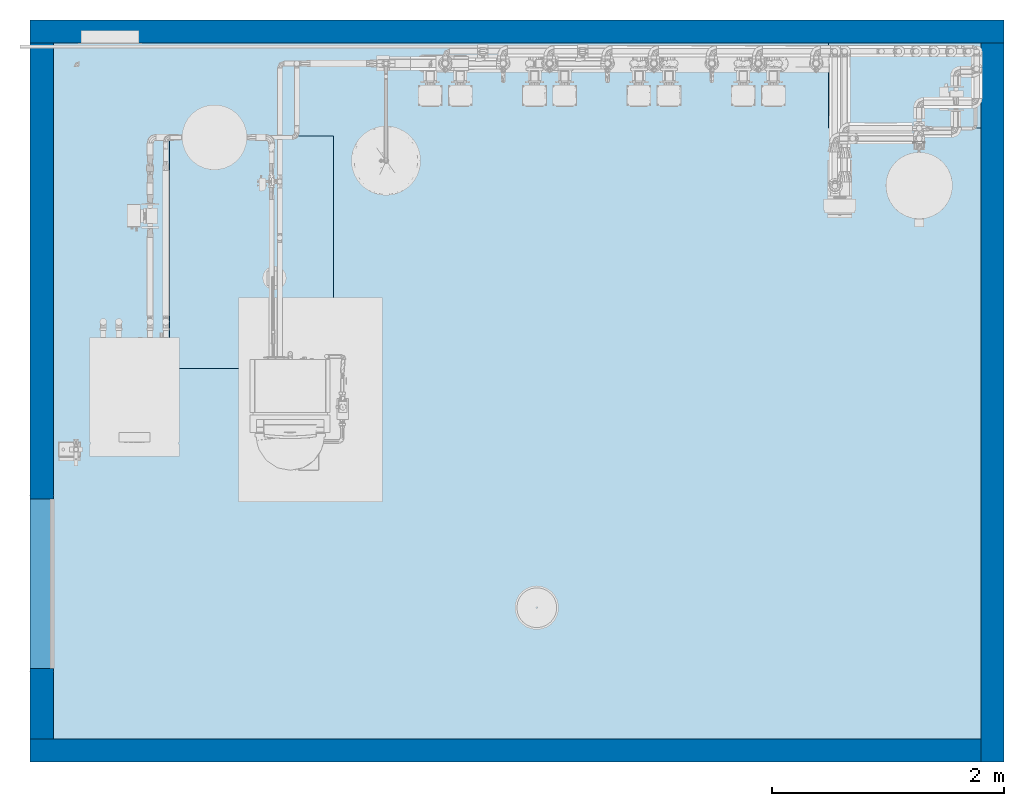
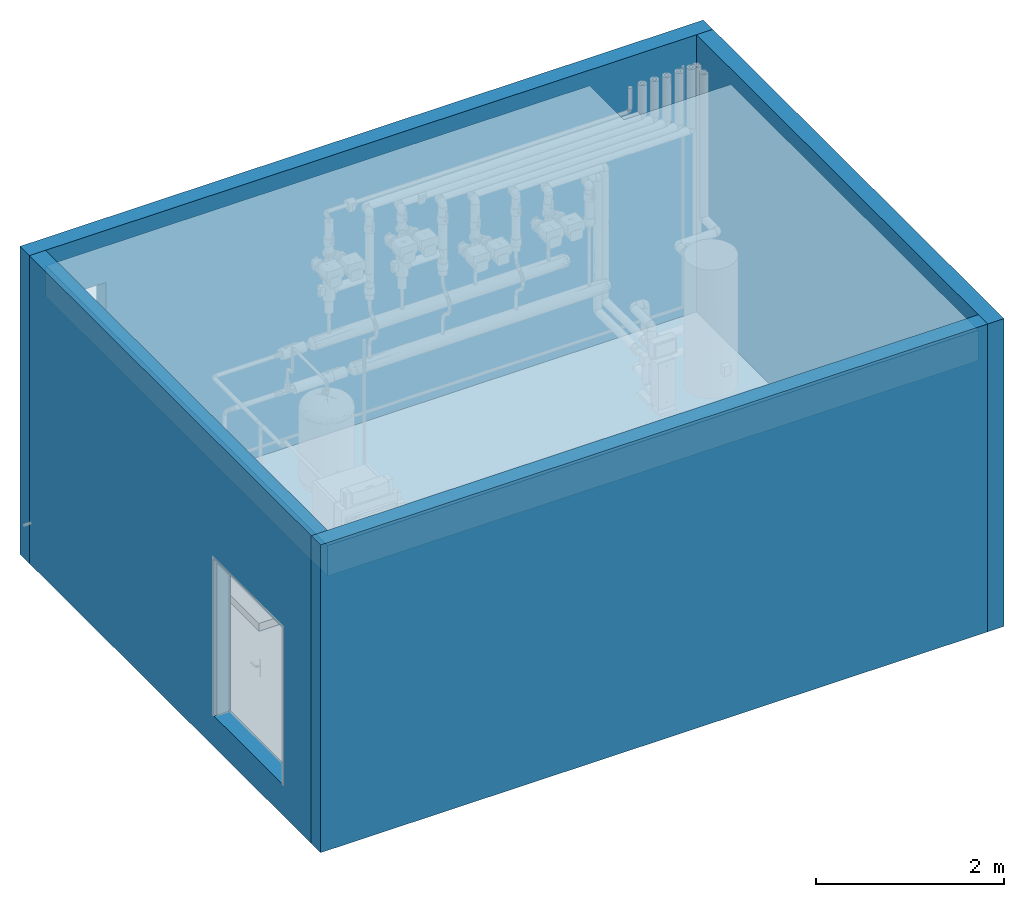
# One storey, part 1 of 94: 4 walls, 3 slabs, 3 openings, 1 element without a shape of its own.
"""IFC2X3 building model written with IfcOpenShell, lengths in millimetres."""

from ifc_helpers import new_model, entity, si_unit, converted_unit, derived_unit, direction, frame, frame_2d, origin, place, context, subcontext, project, spatial, polyline, rectangle, outline, extrude, material, layer, layer_set, layer_usage, type_object, element, aggregate, save


model = new_model("IFC2X3")

# Units and contexts
model_context = context("Model", 3, precision=0.01, world=origin(), true_north=direction((6.123031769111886e-17, 1.0)))
body_context = subcontext(model_context, "Body", "Model", "MODEL_VIEW")
ifc_project = project(units=[si_unit("LENGTHUNIT", "METRE", prefix="MILLI"), si_unit("AREAUNIT", "SQUARE_METRE"), si_unit("VOLUMEUNIT", "CUBIC_METRE"), converted_unit("PLANEANGLEUNIT", "DEGREE", entity("IfcRatioMeasure", 0.017453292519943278), si_unit("PLANEANGLEUNIT", "RADIAN"), dimensions=[0, 0, 0, 0, 0, 0, 0]), si_unit("MASSUNIT", "GRAM", prefix="KILO"), derived_unit("MASSDENSITYUNIT", [(si_unit("MASSUNIT", "GRAM", prefix="KILO"), 1), (si_unit("LENGTHUNIT", "METRE"), -3)]), derived_unit("IONCONCENTRATIONUNIT", [(si_unit("MASSUNIT", "GRAM", prefix="KILO"), 1), (si_unit("LENGTHUNIT", "METRE"), -3)]), derived_unit("MOMENTOFINERTIAUNIT", [(si_unit("LENGTHUNIT", "METRE"), 4)]), si_unit("TIMEUNIT", "SECOND"), si_unit("FREQUENCYUNIT", "HERTZ"), si_unit("THERMODYNAMICTEMPERATUREUNIT", "DEGREE_CELSIUS"), derived_unit("THERMALTRANSMITTANCEUNIT", [(si_unit("MASSUNIT", "GRAM", prefix="KILO"), 1), (si_unit("THERMODYNAMICTEMPERATUREUNIT", "KELVIN"), -1), (si_unit("TIMEUNIT", "SECOND"), -3)]), derived_unit("THERMALCONDUCTANCEUNIT", [(si_unit("MASSUNIT", "GRAM", prefix="KILO"), 1), (si_unit("THERMODYNAMICTEMPERATUREUNIT", "KELVIN"), -1), (si_unit("TIMEUNIT", "SECOND"), -3), (si_unit("LENGTHUNIT", "METRE"), 1)]), derived_unit("VOLUMETRICFLOWRATEUNIT", [(si_unit("LENGTHUNIT", "METRE"), 3), (si_unit("TIMEUNIT", "SECOND"), -1)]), derived_unit("MASSFLOWRATEUNIT", [(si_unit("MASSUNIT", "GRAM", prefix="KILO"), 1), (si_unit("TIMEUNIT", "SECOND"), -1)]), derived_unit("ROTATIONALFREQUENCYUNIT", [(si_unit("TIMEUNIT", "SECOND"), -1)]), si_unit("ELECTRICCURRENTUNIT", "AMPERE"), si_unit("ELECTRICVOLTAGEUNIT", "VOLT"), si_unit("POWERUNIT", "WATT"), si_unit("FORCEUNIT", "NEWTON", prefix="KILO"), si_unit("ILLUMINANCEUNIT", "LUX"), si_unit("LUMINOUSFLUXUNIT", "LUMEN"), si_unit("LUMINOUSINTENSITYUNIT", "CANDELA"), derived_unit("USERDEFINED", [(si_unit("MASSUNIT", "GRAM", prefix="KILO"), -1), (si_unit("LENGTHUNIT", "METRE"), -2), (si_unit("TIMEUNIT", "SECOND"), 3), (si_unit("LUMINOUSFLUXUNIT", "LUMEN"), 1)]), derived_unit("USERDEFINED", [(si_unit("MASSUNIT", "GRAM", prefix="KILO"), 1), (si_unit("TIMEUNIT", "SECOND"), -3), (si_unit("LENGTHUNIT", "METRE"), 3), (si_unit("ELECTRICCURRENTUNIT", "AMPERE"), -2)]), derived_unit("SOUNDPOWERUNIT", [(si_unit("MASSUNIT", "GRAM", prefix="KILO"), 1), (si_unit("TIMEUNIT", "SECOND"), -3), (si_unit("LENGTHUNIT", "METRE"), 2)]), derived_unit("SOUNDPRESSUREUNIT", [(si_unit("MASSUNIT", "GRAM", prefix="KILO"), 1), (si_unit("LENGTHUNIT", "METRE"), -1), (si_unit("TIMEUNIT", "SECOND"), -2)]), derived_unit("LINEARVELOCITYUNIT", [(si_unit("LENGTHUNIT", "METRE"), 1), (si_unit("TIMEUNIT", "SECOND"), -1)]), si_unit("PRESSUREUNIT", "PASCAL"), derived_unit("USERDEFINED", [(si_unit("MASSUNIT", "GRAM", prefix="KILO"), 1), (si_unit("LENGTHUNIT", "METRE"), -2), (si_unit("TIMEUNIT", "SECOND"), -2)]), derived_unit("LINEARFORCEUNIT", [(si_unit("MASSUNIT", "GRAM", prefix="KILO"), 1), (si_unit("TIMEUNIT", "SECOND"), -2)]), derived_unit("PLANARFORCEUNIT", [(si_unit("MASSUNIT", "GRAM", prefix="KILO"), 1), (si_unit("LENGTHUNIT", "METRE"), -1), (si_unit("TIMEUNIT", "SECOND"), -2)]), derived_unit("SPECIFICHEATCAPACITYUNIT", [(si_unit("THERMODYNAMICTEMPERATUREUNIT", "KELVIN"), -1), (si_unit("LENGTHUNIT", "METRE"), 2), (si_unit("TIMEUNIT", "SECOND"), -2)]), derived_unit("HEATINGVALUEUNIT", [(si_unit("LENGTHUNIT", "METRE"), 2), (si_unit("TIMEUNIT", "SECOND"), -2)]), derived_unit("VAPORPERMEABILITYUNIT", [(si_unit("LENGTHUNIT", "METRE"), -1), (si_unit("TIMEUNIT", "SECOND"), 1)]), derived_unit("DYNAMICVISCOSITYUNIT", [(si_unit("MASSUNIT", "GRAM", prefix="KILO"), 1), (si_unit("TIMEUNIT", "SECOND"), -1), (si_unit("LENGTHUNIT", "METRE"), -1)]), derived_unit("THERMALEXPANSIONCOEFFICIENTUNIT", [(si_unit("THERMODYNAMICTEMPERATUREUNIT", "KELVIN"), -1)]), derived_unit("MODULUSOFELASTICITYUNIT", [(si_unit("MASSUNIT", "GRAM", prefix="KILO"), 1), (si_unit("LENGTHUNIT", "METRE"), -1), (si_unit("TIMEUNIT", "SECOND"), -2)]), derived_unit("ISOTHERMALMOISTURECAPACITYUNIT", [(si_unit("LENGTHUNIT", "METRE"), 3), (si_unit("MASSUNIT", "GRAM", prefix="KILO"), -1)]), derived_unit("MOISTUREDIFFUSIVITYUNIT", [(si_unit("TIMEUNIT", "SECOND"), -1), (si_unit("LENGTHUNIT", "METRE"), 2)])], contexts=[model_context])

# Site, building, storey
site_placement = place(None, origin())
site = spatial("IfcSite", under=ifc_project, at=site_placement, Name="Default", CompositionType="ELEMENT")
building_placement = place(site_placement, origin())
building = spatial("IfcBuilding", under=site, at=building_placement, CompositionType="ELEMENT")
storey_placement = place(building_placement, origin())
storey = spatial("IfcBuildingStorey", under=building, at=storey_placement, Name="Niveau 0", CompositionType="ELEMENT", Elevation=0.0)

# Slab
ifc_material_1 = material(Name="Sol par défaut")
ifc_layer_1 = layer(ifc_material_1, 299.99999999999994)
ifc_layer_set_1 = layer_set([ifc_layer_1], Name="Sol:Générique  300 mm")
ifc_layer_usage_1 = layer_usage(ifc_layer_set_1, "AXIS3", "POSITIVE", 0.0)
slab_type_1 = type_object("IfcSlabType", Name="Sol:Générique  300 mm", PredefinedType="FLOOR", material=ifc_layer_set_1)
slab_1_placement = place(storey_placement, origin())
element("IfcSlab", 1, at=slab_1_placement, inside=storey, type_object=slab_type_1, material=ifc_layer_usage_1, Name="Sol:Générique  300 mm", ObjectType="Sol:Générique  300 mm", PredefinedType="FLOOR", context=body_context, shape_type="SweptSolid", body=[
    extrude(rectangle(XDim=5999.999999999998, YDim=7999.999999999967, at=frame_2d((0.0, 9.094947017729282e-12), x_axis=(1.0, 0.0))), frame((-9752.538466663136, 7097.470546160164, 0.0), z_axis=(0.0, 0.0, -1.0), x_axis=(0.0, 1.0, 0.0)), (0.0, 0.0, 1.0), 299.99999999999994),
])

# Roof, slab
ifc_material_2 = material(Name="Contreplaqué, revêtement")
ifc_layer_2 = layer(ifc_material_2, 400.0)
ifc_layer_set_2 = layer_set([ifc_layer_2], Name="Toit de base:Générique  - 400 mm")
roof_placement = place(storey_placement, frame((-13752.538466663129, 4097.470546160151, 3000.0)))
roof = element("IfcRoof", 2, at=roof_placement, inside=storey, material=ifc_layer_set_2, Name="Toit de base:Générique  - 400 mm", ObjectType="Toit de base:Générique  - 400 mm", ShapeType="NOTDEFINED")
slab_type_2 = type_object("IfcSlabType", Name="Toit de base:Générique  - 400 mm", PredefinedType="ROOF")
slab_2_placement = place(roof_placement, origin())
slab_2 = element("IfcSlab", 3, at=slab_2_placement, type_object=slab_type_2, material=ifc_layer_set_2, Name="Toit de base:Générique  - 400 mm", ObjectType="Toit de base:Générique  - 400 mm", PredefinedType="ROOF", context=body_context, shape_type="SweptSolid", body=[
    extrude(outline(polyline([(-4000.0, 3000.0), (-4000.0, -3000.0), (4000.0, -3000.0), (4000.0, 2268.681428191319), (2687.460031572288, 2268.681428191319), (2687.460031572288, 3000.0), (-4000.0, 3000.0)])), frame((4000.0, 3000.0, 0.0)), (0.0, 0.0, 1.0), 400.0),
])
aggregate(roof, [slab_2])

# Slab
ifc_layer_3 = layer(ifc_material_1, 100.0)
ifc_layer_set_3 = layer_set([ifc_layer_3], Name="Sol:Générique  100 mm 2")
ifc_layer_usage_2 = layer_usage(ifc_layer_set_3, "AXIS3", "POSITIVE", 0.0)
slab_type_3 = type_object("IfcSlabType", Name="Sol:Générique  100 mm 2", PredefinedType="FLOOR", material=ifc_layer_set_3)
slab_3_placement = place(storey_placement, origin())
element("IfcSlab", 4, at=slab_3_placement, inside=storey, type_object=slab_type_3, material=ifc_layer_usage_2, Name="Sol:Générique  100 mm 2", ObjectType="Sol:Générique  100 mm 2", PredefinedType="FLOOR", context=body_context, shape_type="SweptSolid", body=[
    extrude(rectangle(XDim=2003.703807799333, YDim=1413.616278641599, at=frame_2d((0.0, -1.0800249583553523e-12), x_axis=(1.0, 0.0))), frame((-12044.238599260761, 8294.016046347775, 100.0), z_axis=(0.0, 0.0, -1.0), x_axis=(0.0, 1.0, 0.0)), (0.0, 0.0, 1.0), 100.0),
])

# Wall, openings
ifc_material_3 = material(Name="Mur par défaut")
ifc_layer_4 = layer(ifc_material_3, 200.0)
ifc_layer_set_4 = layer_set([ifc_layer_4], Name="Mur de base:Générique - 200 mm")
ifc_layer_usage_3 = layer_usage(ifc_layer_set_4, "AXIS2", "NEGATIVE", 100.0)
wall_type = type_object("IfcWallType", Name="Mur de base:Générique - 200 mm", PredefinedType="STANDARD", material=ifc_layer_set_4)
wall_1_placement = place(storey_placement, frame((-13952.538466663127, 10197.470546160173, -400.0)))
wall_1 = element("IfcWallStandardCase", 5, at=wall_1_placement, inside=storey, type_object=wall_type, material=ifc_layer_usage_3, Name="Mur de base:Générique - 200 mm", ObjectType="Mur de base:Générique - 200 mm", context=body_context, shape_type="SweptSolid", body=[
    extrude(rectangle(XDim=8400.0, YDim=199.99999999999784, at=frame_2d((4200.0, 5.968558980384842e-13), x_axis=(-1.0, 0.0))), origin(), (0.0, 0.0, 1.0), 4000.0000000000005),
])
opening_1_placement = place(wall_1_placement, origin())
element("IfcOpeningElement", 6, at=opening_1_placement, cuts=wall_1, Name="Mur de base:Générique - 200 mm:398", ObjectType="Opening", context=body_context, shape_type="SweptSolid", body=[
    extrude(rectangle(XDim=400.0, YDim=500.00000000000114, at=frame_2d((1.0800249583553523e-12, 0.0), x_axis=(0.0, 1.0))), frame((689.6050545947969, 100.0, 828.1991194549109), z_axis=(0.0, -1.0, 0.0), x_axis=(-1.0, 0.0, 0.0)), (0.0, 0.0, 1.0), 200.0),
])
opening_2_placement = place(wall_1_placement, origin())
element("IfcOpeningElement", 7, at=opening_2_placement, cuts=wall_1, Name="Mur de base:Générique - 200 mm:398", ObjectType="Opening", context=body_context, shape_type="SweptSolid", body=[
    extrude(rectangle(XDim=400.0, YDim=500.00000000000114, at=frame_2d((1.0800249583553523e-12, 0.0), x_axis=(0.0, 1.0))), frame((689.6050545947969, 100.0, 3122.5404198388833), z_axis=(0.0, -1.0, 0.0), x_axis=(-1.0, 0.0, 0.0)), (0.0, 0.0, 1.0), 200.0),
])

# Walls
wall_2_placement = place(storey_placement, frame((-5652.538466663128, 10097.47054616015, -400.0), z_axis=(0.0, 0.0, 1.0), x_axis=(0.0, -1.0, 0.0)))
element("IfcWallStandardCase", 8, at=wall_2_placement, inside=storey, type_object=wall_type, material=ifc_layer_usage_3, Name="Mur de base:Générique - 200 mm", ObjectType="Mur de base:Générique - 200 mm", context=body_context, shape_type="SweptSolid", body=[
    extrude(rectangle(XDim=6199.999999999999, YDim=200.0, at=frame_2d((3099.9999999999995, 2.1316282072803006e-14), x_axis=(-1.0, 0.0))), origin(), (0.0, 0.0, 1.0), 4000.000000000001),
])
wall_3_placement = place(storey_placement, frame((-5752.538466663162, 3997.4705461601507, -400.0), z_axis=(0.0, 0.0, 1.0), x_axis=(-1.0, 0.0, 0.0)))
element("IfcWallStandardCase", 9, at=wall_3_placement, inside=storey, type_object=wall_type, material=ifc_layer_usage_3, Name="Mur de base:Générique - 200 mm", ObjectType="Mur de base:Générique - 200 mm", context=body_context, shape_type="SweptSolid", body=[
    extrude(rectangle(XDim=8199.999999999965, YDim=200.0, at=frame_2d((4099.999999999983, 5.684341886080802e-14), x_axis=(-1.0, 0.0))), origin(), (0.0, 0.0, 1.0), 4000.0000000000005),
])

# Wall, opening
wall_4_placement = place(storey_placement, frame((-13852.538466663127, 4097.470546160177, -400.0), z_axis=(0.0, 0.0, 1.0), x_axis=(0.0, 1.0, 0.0)))
wall_4 = element("IfcWallStandardCase", 10, at=wall_4_placement, inside=storey, type_object=wall_type, material=ifc_layer_usage_3, Name="Mur de base:Générique - 200 mm", ObjectType="Mur de base:Générique - 200 mm", context=body_context, shape_type="SweptSolid", body=[
    extrude(rectangle(XDim=5999.999999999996, YDim=200.0, at=frame_2d((2999.9999999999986, -1.0871303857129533e-12), x_axis=(-1.0, 0.0))), origin(), (0.0, 0.0, 1.0), 4000.0000000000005),
])
opening_3_placement = place(wall_4_placement, frame((2068.9655018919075, 100.0, 400.0)))
element("IfcOpeningElement", 11, at=opening_3_placement, cuts=wall_4, Name="HM-Double:1460 x 2040 mm:1", ObjectType="Opening", context=body_context, shape_type="SweptSolid", body=[
    extrude(rectangle(XDim=2041.5000000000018, YDim=1463.0000000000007, at=frame_2d((1020.7500000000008, 731.5000000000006), x_axis=(1.0, 0.0))), frame((0.0, 0.0, 0.0), z_axis=(0.0, -1.0, 0.0), x_axis=(0.0, 0.0, 1.0)), (0.0, 0.0, 1.0), 200.0),
])

save(model, "model.ifc")
